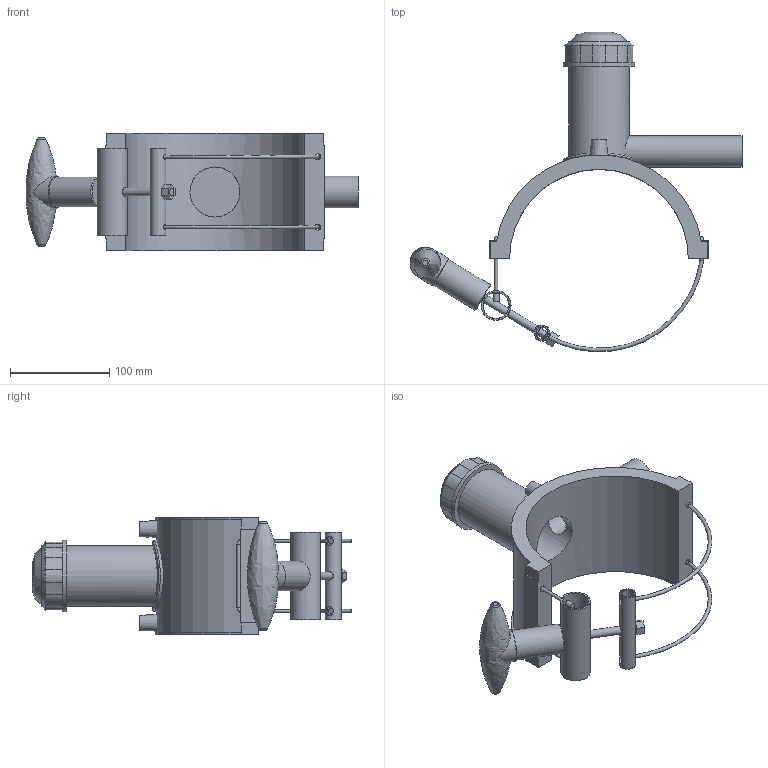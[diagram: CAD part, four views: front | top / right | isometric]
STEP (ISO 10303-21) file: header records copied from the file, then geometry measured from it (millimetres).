
FILE_DESCRIPTION(/* description */ ('PLASSON TAPPING SADDLE 180x32'),/* implementation_level */ '2;1');
FILE_NAME(/* name */ 'C:\Dropbox\99-16-3568-Processing\ElectroFusion Fittings\4963Q4 (new clamping)\4963Q4180032.ipt.stp',/* time_stamp */ '2021-03-07T12:51:35+02:00',/* author */ ('KIM'),/* organization */ (''),/* preprocessor_version */ 'ST-DEVELOPER v17.2',/* originating_system */ 'Autodesk Inventor 2019',/* authorisation */ '');
FILE_SCHEMA (('AUTOMOTIVE_DESIGN { 1 0 10303 214 3 1 1 }'));
Length unit declared in the file: millimetre
Products named in the file (1): 4963Q4180032
Bounding box: 334.18 x 321.47 x 118 mm (x, y, z)
Volume: 824065.8 mm3; surface area: 203784.2 mm2
Topology: 6 solids, 6 shells, 176 faces, 447 edges, 295 vertices
Faces by surface type: plane 83, cylinder 58, cone 19, torus 9, bspline 7
Full cylindrical faces by diameter (mm): 3.6 x5, 4 x4, 4.6 x2, 6 x8, 8 x2, 8.5 x2, 9 x2, 10 x2, 12 x1, 16 x1, 25.6 x1, 26 x1, 30 x2, 32 x2, 50.4 x1, 61.2 x1, 72 x1
Entity records: 7115 total; most frequent: CARTESIAN_POINT 2791, ORIENTED_EDGE 894, DIRECTION 853, EDGE_CURVE 447, AXIS2_PLACEMENT_3D 327, VERTEX_POINT 295, EDGE_LOOP 226, LINE 199
